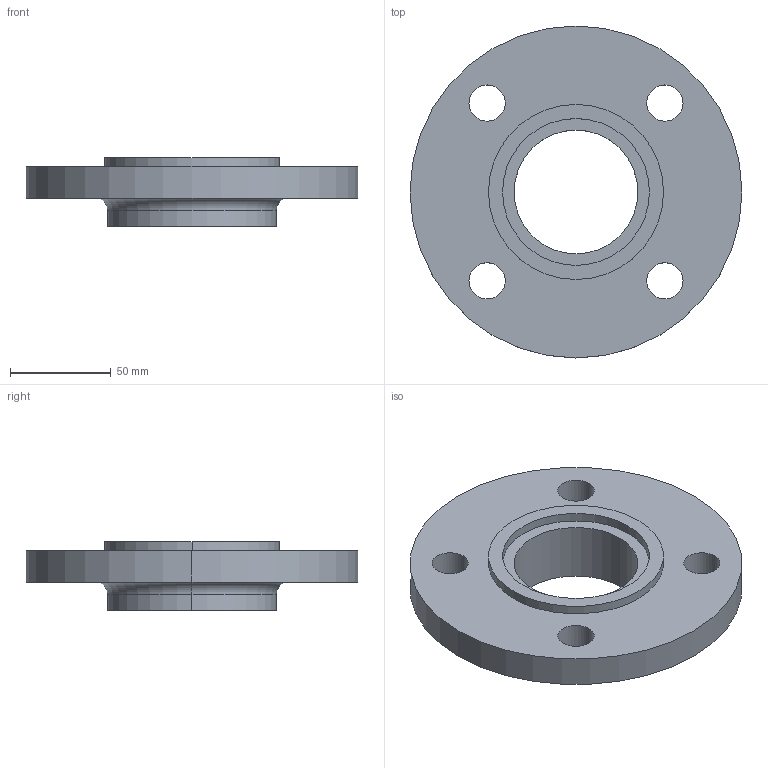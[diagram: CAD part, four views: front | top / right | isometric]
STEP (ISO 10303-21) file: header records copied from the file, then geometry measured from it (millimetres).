
FILE_DESCRIPTION (( 'STEP AP214' ), '1' );
FILE_NAME ('PN40 DN50 Type 12 - Type C Face.STEP', '2018-12-30T04:33:54', ( '' ), ( '' ), 'SwSTEP 2.0', 'SolidWorks 2019', '' );
FILE_SCHEMA (( 'AUTOMOTIVE_DESIGN' ));
Length unit declared in the file: millimetre
Products named in the file (1): PN40 DN50 Type 12 - Type C Face
Bounding box: 165 x 165 x 34 mm (x, y, z)
Volume: 315624.6 mm3; surface area: 57321.2 mm2
Topology: 1 solids, 1 shells, 25 faces, 58 edges, 38 vertices
Faces by surface type: cylinder 18, plane 5, torus 2
Entity records: 790 total; most frequent: DIRECTION 150, CARTESIAN_POINT 122, ORIENTED_EDGE 116, AXIS2_PLACEMENT_3D 66, EDGE_CURVE 58, CIRCLE 40, EDGE_LOOP 38, VERTEX_POINT 38
